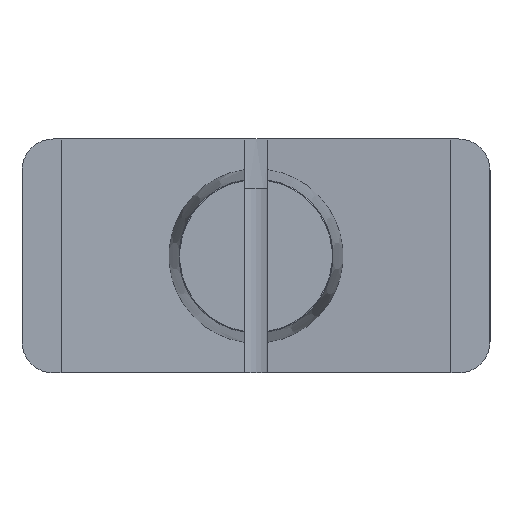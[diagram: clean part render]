
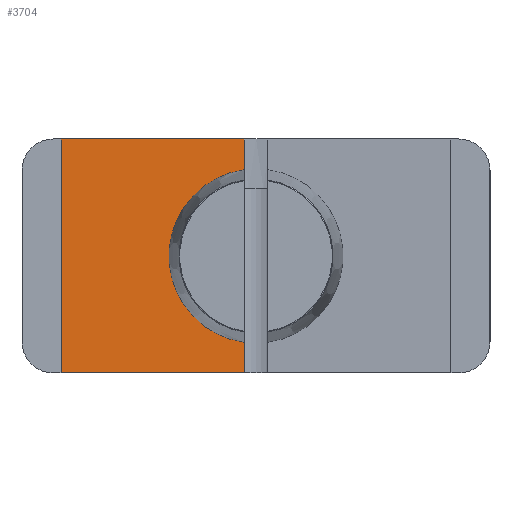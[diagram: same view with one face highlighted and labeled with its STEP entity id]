
A CAD part, front view. The second image highlights one B-rep face of the part: STEP entity #3704.
In plain terms, the highlighted planar face has unit normal (0.044, -0.999, 0).
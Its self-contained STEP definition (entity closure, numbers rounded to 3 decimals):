
#30 = VERTEX_POINT ( 'NONE', #987 ) ;
#37 = ORIENTED_EDGE ( 'NONE', *, *, #1777, .T. ) ;
#883 = CARTESIAN_POINT ( 'NONE',  ( -12.5, -0.546, -7.5 ) ) ;
#939 = VECTOR ( 'NONE', #1804, 1000. ) ;
#987 = CARTESIAN_POINT ( 'NONE',  ( -0.75, -0.033, 7.5 ) ) ;
#1112 = VERTEX_POINT ( 'NONE', #2642 ) ;
#1339 = DIRECTION ( 'NONE',  ( 0., 0., -1. ) ) ;
#1422 = LINE ( 'NONE', #5490, #2148 ) ;
#1522 = DIRECTION ( 'NONE',  ( 0., 0., 1. ) ) ;
#1656 = CARTESIAN_POINT ( 'NONE',  ( -0.75, -0.033, -7.5 ) ) ;
#1777 = EDGE_CURVE ( 'NONE', #3682, #1977, #3213, .T. ) ;
#1804 = DIRECTION ( 'NONE',  ( 0.999, 0.044, 0. ) ) ;
#1819 = CARTESIAN_POINT ( 'NONE',  ( -12.5, -0.546, 7.5 ) ) ;
#1976 = VECTOR ( 'NONE', #3568, 1000. ) ;
#1977 = VERTEX_POINT ( 'NONE', #1656 ) ;
#2148 = VECTOR ( 'NONE', #1339, 1000. ) ;
#2150 = CARTESIAN_POINT ( 'NONE',  ( 0., 0., 7.5 ) ) ;
#2253 = CARTESIAN_POINT ( 'NONE',  ( 0., 0., 7.5 ) ) ;
#2444 = AXIS2_PLACEMENT_3D ( 'NONE', #2253, #5395, #3072 ) ;
#2479 = CARTESIAN_POINT ( 'NONE',  ( -0.75, -0.033, 4.741 ) ) ;
#2549 = ORIENTED_EDGE ( 'NONE', *, *, #2658, .T. ) ;
#2622 = FACE_OUTER_BOUND ( 'NONE', #3910, .T. ) ;
#2642 = CARTESIAN_POINT ( 'NONE',  ( -0.75, -0.033, -4.741 ) ) ;
#2654 = CARTESIAN_POINT ( 'NONE',  ( -0.75, -0.033, 4.741 ) ) ;
#2658 = EDGE_CURVE ( 'NONE', #3540, #3682, #1422, .T. ) ;
#2833 = VECTOR ( 'NONE', #1522, 1000. ) ;
#2926 = VECTOR ( 'NONE', #5499, 1000. ) ;
#3043 = CARTESIAN_POINT ( 'NONE',  ( -7.886, -0.344, 3.612 ) ) ;
#3072 = DIRECTION ( 'NONE',  ( -0.999, -0.044, 0. ) ) ;
#3213 = LINE ( 'NONE', #5038, #939 ) ;
#3240 = ORIENTED_EDGE ( 'NONE', *, *, #4001, .T. ) ;
#3540 = VERTEX_POINT ( 'NONE', #1819 ) ;
#3568 = DIRECTION ( 'NONE',  ( 0.999, 0.044, 0. ) ) ;
#3682 = VERTEX_POINT ( 'NONE', #883 ) ;
#3684 = CARTESIAN_POINT ( 'NONE',  ( -0.75, -0.033, 7.5 ) ) ;
#3704 = ADVANCED_FACE ( 'NONE', ( #2622 ), #5816, .F. ) ;
#3811 = ORIENTED_EDGE ( 'NONE', *, *, #5388, .F. ) ;
#3899 = EDGE_CURVE ( 'NONE', #1977, #1112, #4543, .T. ) ;
#3910 = EDGE_LOOP ( 'NONE', ( #37, #5333, #5246, #3240, #3811, #2549 ) ) ;
#3938 = VERTEX_POINT ( 'NONE', #2479 ) ;
#3967 = CARTESIAN_POINT ( 'NONE',  ( -0.75, -0.033, -4.741 ) ) ;
#4001 = EDGE_CURVE ( 'NONE', #3938, #30, #5620, .T. ) ;
#4027 = CARTESIAN_POINT ( 'NONE',  ( -7.886, -0.344, -3.612 ) ) ;
#4543 = LINE ( 'NONE', #3684, #2926 ) ;
#5038 = CARTESIAN_POINT ( 'NONE',  ( 0., 0., -7.5 ) ) ;
#5175 = CARTESIAN_POINT ( 'NONE',  ( -0.75, -0.033, 7.5 ) ) ;
#5246 = ORIENTED_EDGE ( 'NONE', *, *, #5897, .F. ) ;
#5259 =( BOUNDED_CURVE ( )  B_SPLINE_CURVE ( 3, ( #2654, #3043, #4027, #3967 ),
 .UNSPECIFIED., .F., .F. ) 
 B_SPLINE_CURVE_WITH_KNOTS ( ( 4, 4 ),
 ( 1.728, 4.555 ),
 .UNSPECIFIED. ) 
 CURVE ( )  GEOMETRIC_REPRESENTATION_ITEM ( )  RATIONAL_B_SPLINE_CURVE ( ( 1., 0.438, 0.438, 1. ) ) 
 REPRESENTATION_ITEM ( '' )  );
#5333 = ORIENTED_EDGE ( 'NONE', *, *, #3899, .T. ) ;
#5388 = EDGE_CURVE ( 'NONE', #3540, #30, #5890, .T. ) ;
#5395 = DIRECTION ( 'NONE',  ( -0.044, 0.999, 0. ) ) ;
#5490 = CARTESIAN_POINT ( 'NONE',  ( -12.5, -0.546, 7.5 ) ) ;
#5499 = DIRECTION ( 'NONE',  ( 0., 0., 1. ) ) ;
#5620 = LINE ( 'NONE', #5175, #2833 ) ;
#5816 = PLANE ( 'NONE',  #2444 ) ;
#5890 = LINE ( 'NONE', #2150, #1976 ) ;
#5897 = EDGE_CURVE ( 'NONE', #3938, #1112, #5259, .T. ) ;
